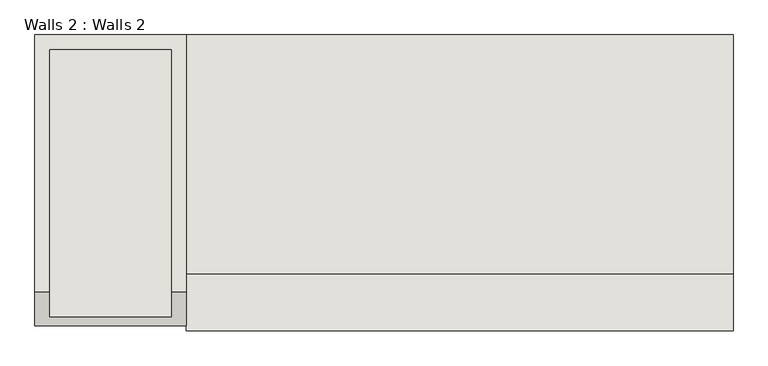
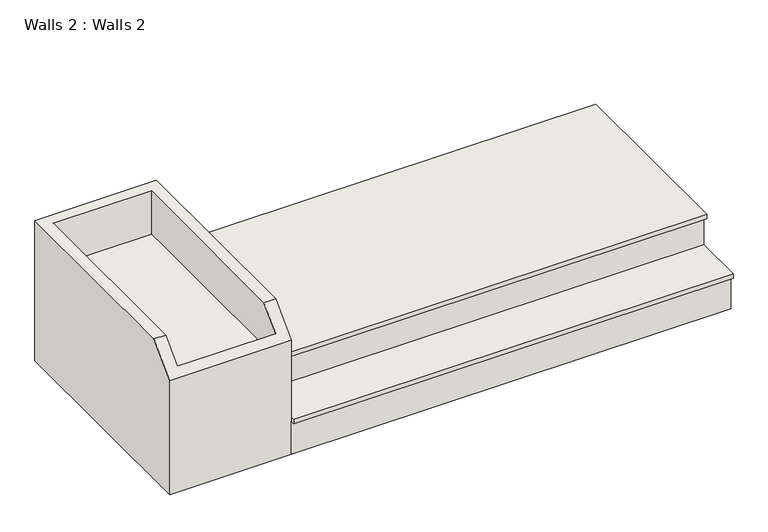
"""IFC4 building model written with IfcOpenShell, lengths in millimetres: wall geometry, Walls 2 : Walls 2."""

from ifc_helpers import new_model, si_unit, frame, origin, origin_with_axes, place, context, project, spatial, polyline, outline, extrude, faceted_brep, source, transform, mapped, element, save


def walls_2_walls_2_d2a09bbc(model_context):
    return source(origin(), model_context, "Body", "SolidModel", [
        extrude(outline(polyline([(-8116.7763241, -2649.3897122), (-8116.7763241, -2866.5610118), (-9996.7763241, -2866.5610118), (-9996.7763241, -2649.3897122), (-8116.7763241, -2649.3897122)])), frame((0.0, 0.0, 150.0), z_axis=(0.0, 0.0, 1.0), x_axis=(1.0, 0.0, 0.0)), (0.0, 0.0, 1.0), 20.0),
        extrude(outline(polyline([(-8116.7763241, -1849.3897122), (-8116.7763241, -2670.368785), (-9996.7763241, -2670.368785), (-9996.7763241, -1849.3897122), (-8116.7763241, -1849.3897122)])), frame((0.0, 0.0, 300.0), z_axis=(0.0, 0.0, 1.0), x_axis=(1.0, 0.0, 0.0)), (0.0, 0.0, 1.0), 20.0),
        extrude(outline(polyline([(-9996.7763241, -2649.3897122), (-8116.7763241, -2649.3897122), (-8116.7763241, -2849.4449025), (-9996.7763241, -2849.4449025), (-9996.7763241, -2649.3897122)])), origin_with_axes(), (0.0, 0.0, 1.0), 150.0),
        extrude(outline(polyline([(-9996.7763241, -1849.3897122), (-8116.7763241, -1849.3897122), (-8116.7763241, -2649.3897122), (-9996.7763241, -2649.3897122), (-9996.7763241, -1849.3897122)])), origin_with_axes(), (0.0, 0.0, 1.0), 300.0),
        faceted_brep([(-9996.7763241, -1849.3897122, 633.1159605), (-10516.7763241, -1849.3897122, 633.1159605), (-10516.7763241, -2731.7735516, 633.1159605), (-10466.7763241, -2731.7735516, 633.1159605), (-10466.7763241, -1899.3897122, 633.1159605), (-10046.7763241, -1899.3897122, 633.1159605), (-10046.7763241, -2731.7735516, 633.1159605), (-9996.7763241, -2731.7735516, 633.1159605), (-10516.7763241, -1849.3897122, 0.0), (-9996.7763241, -1849.3897122, 0.0), (-9996.7763241, -2849.4449025, 0.0), (-10516.7763241, -2849.4449025, 0.0), (-10516.7763241, -2849.4449025, 515.4446096), (-9996.7763241, -2849.4449025, 515.4446096), (-10046.7763241, -2819.3897122, 545.4997999), (-10466.7763241, -2819.3897122, 545.4997999), (-10466.7763241, -1899.3897122, 438.0909414), (-10466.7763241, -2819.3897122, 438.0909414), (-10046.7763241, -2819.3897122, 438.0909414), (-10046.7763241, -1899.3897122, 438.0909414)], [[[0, 1, 2, 3, 4, 5, 6, 7]], [[8, 9, 10, 11]], [[8, 11, 12, 2, 1]], [[11, 10, 13, 12]], [[10, 9, 0, 7, 13]], [[1, 0, 9, 8]], [[2, 12, 13, 7, 6, 14, 15, 3]], [[16, 17, 18, 19]], [[16, 19, 5, 4]], [[19, 18, 14, 6, 5]], [[18, 17, 15, 14]], [[17, 16, 4, 3, 15]]]),
    ])


if __name__ == "__main__":
    model = new_model("IFC4")
    model_context = context("Model", 3, world=origin())
    ifc_project = project(units=[si_unit("LENGTHUNIT", "METRE", prefix="MILLI")], contexts=[model_context])
    site = spatial("IfcSite", under=ifc_project)
    building = spatial("IfcBuilding", under=site)
    placement = place(None, origin())
    walls_2_walls_2_shape = walls_2_walls_2_d2a09bbc(model_context)
    element("IfcWall", 1, ObjectType="Walls 2 : Walls 2", at=placement, inside=building, context=model_context, shape_type="MappedRepresentation", body=[
        mapped(walls_2_walls_2_shape, transform((0.0, 0.0, 0.0), x_axis=(1.0, 0.0, 0.0), y_axis=(0.0, 1.0, 0.0), z_axis=(0.0, 0.0, 1.0))),
    ])
    save(model, "model.ifc")
